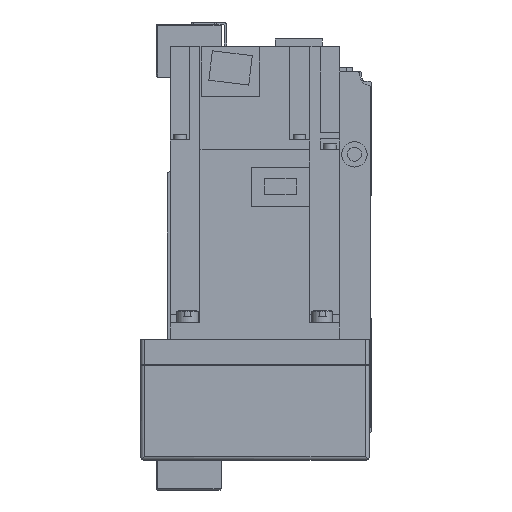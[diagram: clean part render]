
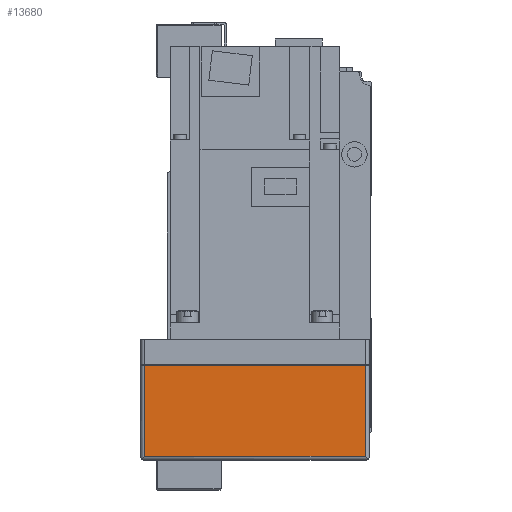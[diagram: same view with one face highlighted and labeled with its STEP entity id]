
A CAD part, left-side view. The second image highlights one B-rep face of the part: STEP entity #13680.
In plain terms, the highlighted planar face has unit normal (-1, 0, 0).
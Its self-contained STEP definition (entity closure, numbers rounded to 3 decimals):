
#2468=ORIENTED_EDGE('',*,*,#5690,.T.);
#2469=ORIENTED_EDGE('',*,*,#5618,.T.);
#2470=ORIENTED_EDGE('',*,*,#5691,.F.);
#2471=ORIENTED_EDGE('',*,*,#5630,.F.);
#5618=EDGE_CURVE('',#7378,#7381,#8816,.T.);
#5630=EDGE_CURVE('',#7388,#7390,#8821,.T.);
#5690=EDGE_CURVE('',#7388,#7378,#8863,.T.);
#5691=EDGE_CURVE('',#7390,#7381,#8864,.T.);
#7378=VERTEX_POINT('',#21365);
#7381=VERTEX_POINT('',#21371);
#7388=VERTEX_POINT('',#21394);
#7390=VERTEX_POINT('',#21397);
#8816=LINE('',#21372,#10129);
#8821=LINE('',#21396,#10134);
#8863=LINE('',#21520,#10176);
#8864=LINE('',#21521,#10177);
#10129=VECTOR('',#17077,1000.);
#10134=VECTOR('',#17104,1000.);
#10176=VECTOR('',#17224,1000.);
#10177=VECTOR('',#17225,1000.);
#11285=EDGE_LOOP('',(#2468,#2469,#2470,#2471));
#12276=FACE_BOUND('',#11285,.T.);
#13099=PLANE('',#14695);
#13680=ADVANCED_FACE('',(#12276),#13099,.T.);
#14695=AXIS2_PLACEMENT_3D('',#21519,#17222,#17223);
#17077=DIRECTION('',(0.,0.,1.));
#17104=DIRECTION('',(0.,0.,1.));
#17222=DIRECTION('',(-1.,0.,0.));
#17223=DIRECTION('',(0.,0.,1.));
#17224=DIRECTION('',(0.,-1.,0.));
#17225=DIRECTION('',(0.,-1.,0.));
#21365=CARTESIAN_POINT('',(-230.,-52.,-55.));
#21371=CARTESIAN_POINT('',(-230.,-52.,-12.));
#21372=CARTESIAN_POINT('',(-230.,-52.,-57.));
#21394=CARTESIAN_POINT('',(-230.,52.,-55.));
#21396=CARTESIAN_POINT('',(-230.,52.,-57.));
#21397=CARTESIAN_POINT('',(-230.,52.,-12.));
#21519=CARTESIAN_POINT('',(-230.,52.,-57.));
#21520=CARTESIAN_POINT('',(-230.,54.,-55.));
#21521=CARTESIAN_POINT('',(-230.,52.,-12.));
